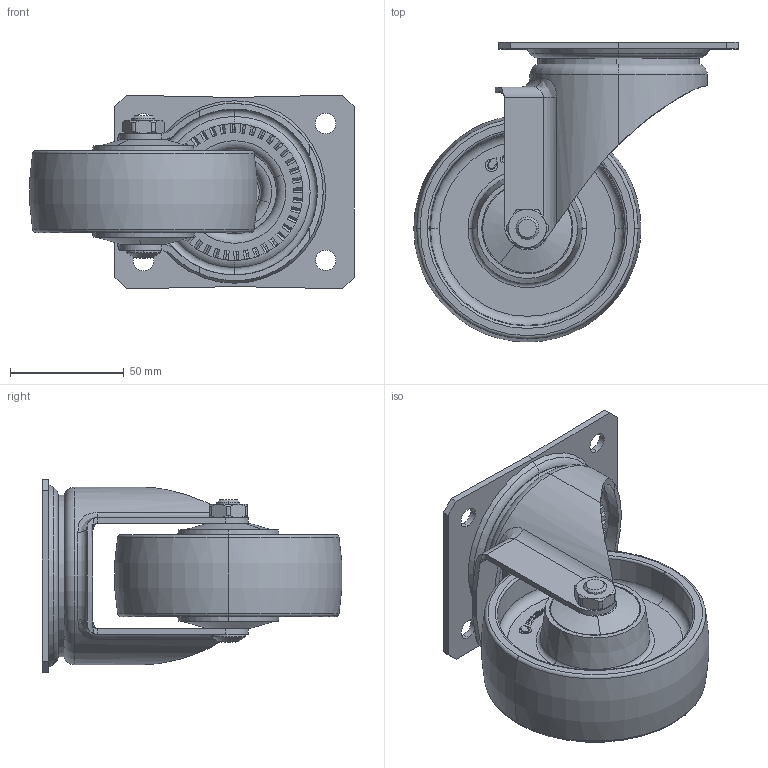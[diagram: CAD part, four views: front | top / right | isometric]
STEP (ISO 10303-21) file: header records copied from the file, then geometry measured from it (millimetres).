
FILE_DESCRIPTION (( 'STEP AP203' ), '1' );
FILE_NAME ('400302_STEP.STEP', '2011-08-26T11:44:04', ( '' ), ( '' ), 'SwSTEP 2.0', 'SolidWorks 2011', '' );
FILE_SCHEMA (( 'CONFIG_CONTROL_DESIGN' ));
Length unit declared in the file: millimetre
Products named in the file (1): 400302_STEP
Bounding box: 142.37 x 131.56 x 85.07 mm (x, y, z)
Surface area: 85894.1 mm2 (no closed solid volume)
Topology: 0 solids, 15 shells, 312 faces, 1167 edges, 840 vertices
Faces by surface type: plane 154, cylinder 74, torus 46, cone 32, bspline 6
Entity records: 13468 total; most frequent: CARTESIAN_POINT 3768, DIRECTION 2001, ORIENTED_EDGE 1892, EDGE_CURVE 1167, VERTEX_POINT 840, AXIS2_PLACEMENT_3D 707, VECTOR 587, LINE 587
